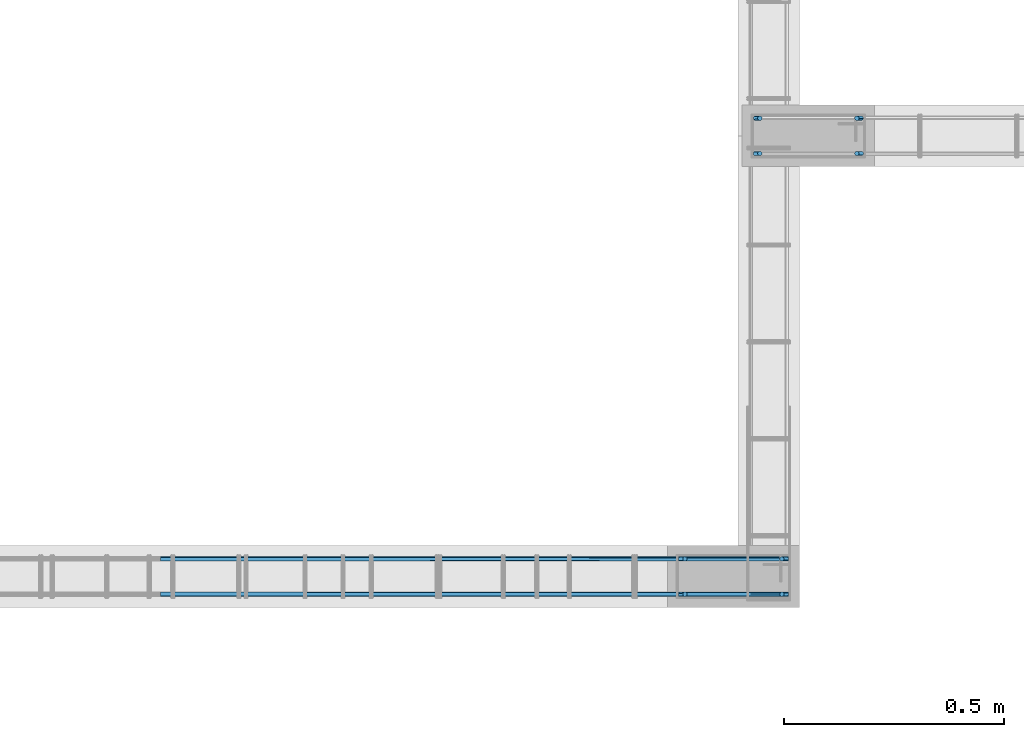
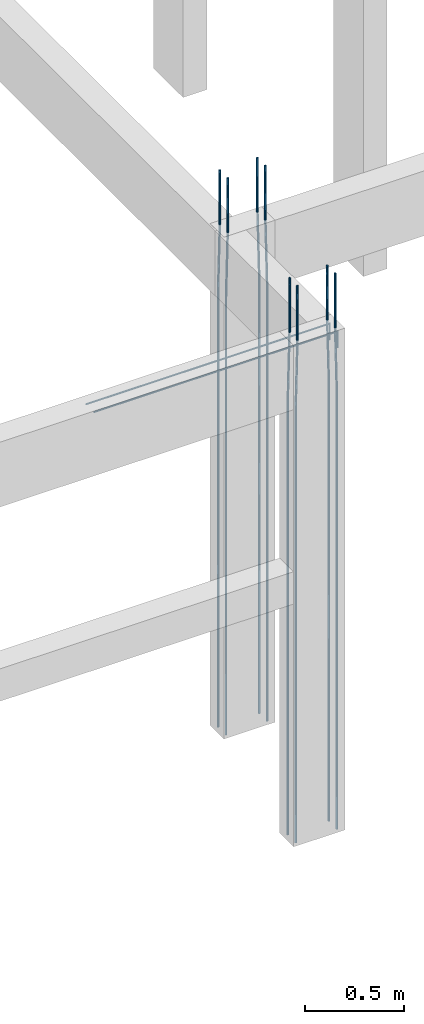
# One storey, part 17 of 236: 10 reinforcing bars.
"""IFC4 building model written with IfcOpenShell, lengths in centimetres."""

import ifcopenshell
import ifcopenshell.guid

model = None  # the IFC model being written
_history = None  # IfcOwnerHistory: only IFC2X3 demands one
_inside = {}  # id of a spatial element -> (the spatial element, [elements in it])
_under = {}  # id of a project, library or spatial element -> (it, [spatial elements below it])
_declared = {}  # id of a project -> (the project, [libraries it declares])
_typed = {}  # id of a type object -> (the type object, [elements of that type])
_made_of = {}  # id of a material, layer set ... -> (it, [elements and type objects made of it])


def new_model(schema):
    """Start an empty IFC model of exactly this schema.

    Asked for "IFC4X3", IfcOpenShell would pick the latest addendum, in which some entities
    have other attributes; the version numbers below select the first issue.
    IFC2X3 requires an IfcOwnerHistory on every rooted entity: one is made here for all.
    """
    global model, _history
    if schema == "IFC4X3":
        model = ifcopenshell.file(schema_version=(4, 3, 0, 0))
    else:
        model = ifcopenshell.file(schema=schema)
    _inside.clear()
    _under.clear()
    _declared.clear()
    _typed.clear()
    _made_of.clear()
    _history = None
    if model.schema == "IFC2X3":
        org = make("IfcOrganization", Name="unknown")
        user = make(
            "IfcPersonAndOrganization",
            ThePerson=make("IfcPerson", FamilyName="unknown"),
            TheOrganization=org,
        )
        app = make(
            "IfcApplication",
            ApplicationDeveloper=org,
            Version="unknown",
            ApplicationFullName="unknown",
            ApplicationIdentifier="unknown",
        )
        _history = make(
            "IfcOwnerHistory",
            OwningUser=user,
            OwningApplication=app,
            ChangeAction="ADDED",
            CreationDate=0,
        )
    return model


def make(cls, **values):
    """One entity of the class cls with the attributes given. An attribute that is None is left unset."""
    return model.create_entity(
        cls, **{name: value for name, value in values.items() if value is not None}
    )


def entity(cls, *values):
    """Any entity or typed value of the class cls, its attributes in the order of the schema. None: left unset."""
    e = model.create_entity(cls)
    for i, value in enumerate(values):
        if value is not None:
            e[i] = value
    return e


def rooted(cls, **values):
    """An entity with a GlobalId (a new one), such as an element, a storey or a relation."""
    return make(cls, GlobalId=ifcopenshell.guid.new(), OwnerHistory=_history, **values)


def si_unit(unit_type, name, prefix=None):
    """IfcSIUnit, for example si_unit("LENGTHUNIT", "METRE", prefix="MILLI")."""
    return make("IfcSIUnit", UnitType=unit_type, Prefix=prefix, Name=name)


def derived_unit(unit_type, elements):
    """IfcDerivedUnit: a product of units, each with its exponent."""
    return make(
        "IfcDerivedUnit",
        Elements=[
            make("IfcDerivedUnitElement", Unit=unit, Exponent=power)
            for unit, power in elements
        ],
        UnitType=unit_type,
    )


def assignment(units):
    """IfcUnitAssignment: the units of a project."""
    return None if units is None else make("IfcUnitAssignment", Units=units)


def point(xyz):
    """IfcCartesianPoint."""
    return None if xyz is None else make("IfcCartesianPoint", Coordinates=xyz)


def direction(xyz):
    """IfcDirection."""
    return None if xyz is None else make("IfcDirection", DirectionRatios=xyz)


def frame(location, z_axis=None, x_axis=None):
    """IfcAxis2Placement3D, a coordinate frame: its origin and axes. An axis left out is left unset."""
    return make(
        "IfcAxis2Placement3D",
        Location=point(location),
        Axis=direction(z_axis),
        RefDirection=direction(x_axis),
    )


def origin_with_axes():
    """The frame at (0, 0, 0) with the z axis (0, 0, 1) and the x axis (1, 0, 0) written out."""
    return frame((0.0, 0.0, 0.0), z_axis=(0.0, 0.0, 1.0), x_axis=(1.0, 0.0, 0.0))


def place(relative_to, where):
    """IfcLocalPlacement: puts the frame where relative to a parent placement (None: the world)."""
    return make(
        "IfcLocalPlacement", PlacementRelTo=relative_to, RelativePlacement=where
    )


def context(
    kind, dimensions, precision=None, world=None, true_north=None, identifier=None
):
    """IfcGeometricRepresentationContext, for example the 3D "Model" context."""
    return make(
        "IfcGeometricRepresentationContext",
        ContextIdentifier=identifier,
        ContextType=kind,
        CoordinateSpaceDimension=dimensions,
        Precision=precision,
        WorldCoordinateSystem=world,
        TrueNorth=true_north,
    )


def project(units=None, contexts=None):
    """IfcProject with its units and contexts."""
    return rooted(
        "IfcProject",
        Name="project",
        RepresentationContexts=contexts,
        UnitsInContext=assignment(units),
    )


def spatial(cls, under=None, at=None, **own):
    """A site, building, storey or space (cls), placed at a placement, below another one or the project."""
    s = rooted(cls, ObjectPlacement=at, **own)
    if under is not None:
        _under.setdefault(under.id(), (under, []))[1].append(s)
    return s


def shape(context_of_items, identifier, shape_type, items):
    """IfcShapeRepresentation: the items that make up one representation, for example the "Body"."""
    return make(
        "IfcShapeRepresentation",
        ContextOfItems=context_of_items,
        RepresentationIdentifier=identifier,
        RepresentationType=shape_type,
        Items=items,
    )


def made_of(thing, what):
    """Note that an element or type object is made of a material, layer set ...; save() writes the relation."""
    if what is not None:
        _made_of.setdefault(what.id(), (what, []))[1].append(thing)
    return thing


def element(
    cls,
    number,
    at=None,
    inside=None,
    cuts=None,
    type_object=None,
    material=None,
    context=None,
    identifier="Body",
    shape_type=None,
    held_by="IfcProductDefinitionShape",
    body=None,
    shapes=None,
    **own,
):
    """One element of the class cls, such as IfcWall. Its Tag is "e" and its number.

    at: its placement. inside: the storey or other place that contains it. cuts: it is an
    opening in that element (IfcRelVoidsElement). A single representation is given by context,
    identifier, shape_type and body (its items); several are given by shapes. held_by: the class
    of the entity that holds the representations. save() writes the other relations.
    """
    e = rooted(cls, Tag="e%d" % number, ObjectPlacement=at, **own)
    if body is not None:
        shapes = [shape(context, identifier, shape_type, body)]
    if shapes is not None:
        e.Representation = make(held_by, Representations=shapes)
    if inside is not None:
        _inside.setdefault(inside.id(), (inside, []))[1].append(e)
    if cuts is not None:
        rooted(
            "IfcRelVoidsElement", RelatingBuildingElement=cuts, RelatedOpeningElement=e
        )
    if type_object is not None:
        _typed.setdefault(type_object.id(), (type_object, []))[1].append(e)
    return made_of(e, material)


def aggregate(whole, parts):
    """IfcRelAggregates: a whole, such as a stair, and the parts it consists of."""
    return rooted("IfcRelAggregates", RelatingObject=whole, RelatedObjects=parts)


def save(model, path):
    """Write the relations noted so far, then the file.

    IfcRelAggregates (storeys below a building ...), IfcRelContainedInSpatialStructure (elements
    in a storey), IfcRelDefinesByType, IfcRelAssociatesMaterial and IfcRelDeclares: one each for
    every whole, place, type object, material and project.
    """
    for whole, parts in _under.values():
        aggregate(whole, parts)
    for where, things in _inside.values():
        rooted(
            "IfcRelContainedInSpatialStructure",
            RelatedElements=things,
            RelatingStructure=where,
        )
    for kind, things in _typed.values():
        rooted("IfcRelDefinesByType", RelatedObjects=things, RelatingType=kind)
    for what, things in _made_of.values():
        rooted("IfcRelAssociatesMaterial", RelatedObjects=things, RelatingMaterial=what)
    for by, libraries in _declared.values():
        rooted("IfcRelDeclares", RelatingContext=by, RelatedDefinitions=libraries)
    model.write(path)


model = new_model("IFC4")

# Units and contexts
model_context = context("Model", 3, precision=1e-05, world=origin_with_axes(), identifier="Body")
ifc_project = project(units=[si_unit("LENGTHUNIT", "METRE", prefix="CENTI"), si_unit("VOLUMEUNIT", "CUBIC_METRE"), si_unit("AREAUNIT", "SQUARE_METRE"), si_unit("POWERUNIT", "WATT"), si_unit("LUMINOUSFLUXUNIT", "LUMEN"), si_unit("ELECTRICCURRENTUNIT", "AMPERE"), si_unit("PRESSUREUNIT", "PASCAL", prefix="KILO"), si_unit("MASSUNIT", "GRAM", prefix="KILO"), si_unit("PLANEANGLEUNIT", "RADIAN"), derived_unit("VOLUMETRICFLOWRATEUNIT", [(si_unit("LENGTHUNIT", "METRE"), 3), (si_unit("TIMEUNIT", "SECOND"), -1)])], contexts=[model_context])

# Site, building, storey
site_placement = place(None, frame((-4000.0, 0.0, 0.0), z_axis=(0.0, 0.0, 1.0), x_axis=(1.0, 0.0, 0.0)))
site = spatial("IfcSite", under=ifc_project, at=site_placement, Name="PADRÃO")
building_placement = place(site_placement, frame((0.0, 0.0, -14.0)))
building = spatial("IfcBuilding", under=site, at=building_placement, Name="CRECHE PRÉ-ESCOLA TIPO 2")
placement_1 = place(building_placement, origin_with_axes())
placement_2 = place(placement_1, frame((0.0, 0.0, 30.0), z_axis=(0.0, 0.0, 1.0), x_axis=(1.0, 0.0, 0.0)))
storey_placement = place(placement_2, frame((0.0, 0.0, 310.0), z_axis=(0.0, 0.0, 1.0), x_axis=(1.0, 0.0, 0.0)))
storey = spatial("IfcBuildingStorey", under=building, at=storey_placement, Name="TERREO", CompositionType="ELEMENT", Elevation=326.0)

# Reinforcing bars
reinforcing_bar_placement = place(storey_placement, frame((1116.22, 511.01, 33.3573001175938), z_axis=(0.0, 0.0, 1.0), x_axis=(1.0, 0.0, 0.0)))
element("IfcReinforcingBar", 1, at=reinforcing_bar_placement, inside=storey, Name="P137 - Longitudinal", BarLength=0.0, CrossSectionArea=7.853981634e-05, NominalDiameter=1.0, PredefinedType="MAIN", context=model_context, shape_type="AdvancedSweptSolid", body=[
    entity("IfcSweptDiskSolid", entity("IfcCompositeCurve", [entity("IfcCompositeCurveSegment", "CONTINUOUS", True, entity("IfcPolyline", [entity("IfcCartesianPoint", [-0.5, 0.0, -343.357300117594]), entity("IfcCartesianPoint", [-0.5, 0.0, -73.3573001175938])])), entity("IfcCompositeCurveSegment", "CONTINUOUS", True, entity("IfcPolyline", [entity("IfcCartesianPoint", [-0.5, 0.0, -73.3573001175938]), entity("IfcCartesianPoint", [0.5, 0.0, -33.3573001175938])])), entity("IfcCompositeCurveSegment", "CONTINUOUS", True, entity("IfcPolyline", [entity("IfcCartesianPoint", [0.5, 0.0, -33.3573001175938]), entity("IfcCartesianPoint", [0.5, 0.0, 0.0])]))], False), 0.5),
])
for number, where, z_axis, x_axis, name in (
    (2, (1139.22, 511.01, 33.3573001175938), (0.0, 0.0, 1.0), (1.0, 0.0, 0.0), "P137 - Longitudinal"),
    (3, (1139.22, 519.01, 33.3573001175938), (0.0, 0.0, 1.0), (1.0, 0.0, 0.0), "P137 - Longitudinal"),
):
    element("IfcReinforcingBar", number, at=place(storey_placement, frame(where, z_axis=z_axis, x_axis=x_axis)), inside=storey, Name=name, BarLength=0.0, CrossSectionArea=7.853981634e-05, NominalDiameter=1.0, PredefinedType="MAIN", context=model_context, shape_type="AdvancedSweptSolid", body=[
        entity("IfcSweptDiskSolid", entity("IfcCompositeCurve", [entity("IfcCompositeCurveSegment", "CONTINUOUS", True, entity("IfcPolyline", [entity("IfcCartesianPoint", [0.5, 0.0, -343.357300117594]), entity("IfcCartesianPoint", [0.5, 0.0, -73.3573001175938])])), entity("IfcCompositeCurveSegment", "CONTINUOUS", True, entity("IfcPolyline", [entity("IfcCartesianPoint", [0.5, 0.0, -73.3573001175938]), entity("IfcCartesianPoint", [-0.5, 0.0, -33.3573001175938])])), entity("IfcCompositeCurveSegment", "CONTINUOUS", True, entity("IfcPolyline", [entity("IfcCartesianPoint", [-0.5, 0.0, -33.3573001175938]), entity("IfcCartesianPoint", [-0.5, 0.0, 0.0])]))], False), 0.5),
    ])
for number, where, z_axis, x_axis, name in (
    (4, (1116.22, 519.01, 33.3573001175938), (0.0, 0.0, 1.0), (1.0, 0.0, 0.0), "P137 - Longitudinal"),
    (5, (1099.22, 419.01, 33.3573001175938), (0.0, 0.0, 1.0), (1.0, 0.0, 0.0), "P145 - Longitudinal"),
    (6, (1099.22, 411.01, 33.3573001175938), (0.0, 0.0, 1.0), (1.0, 0.0, 0.0), "P145 - Longitudinal"),
):
    element("IfcReinforcingBar", number, at=place(storey_placement, frame(where, z_axis=z_axis, x_axis=x_axis)), inside=storey, Name=name, BarLength=0.0, CrossSectionArea=7.853981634e-05, NominalDiameter=1.0, PredefinedType="MAIN", context=model_context, shape_type="AdvancedSweptSolid", body=[
        entity("IfcSweptDiskSolid", entity("IfcCompositeCurve", [entity("IfcCompositeCurveSegment", "CONTINUOUS", True, entity("IfcPolyline", [entity("IfcCartesianPoint", [-0.5, 0.0, -343.357300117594]), entity("IfcCartesianPoint", [-0.5, 0.0, -73.3573001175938])])), entity("IfcCompositeCurveSegment", "CONTINUOUS", True, entity("IfcPolyline", [entity("IfcCartesianPoint", [-0.5, 0.0, -73.3573001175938]), entity("IfcCartesianPoint", [0.5, 0.0, -33.3573001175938])])), entity("IfcCompositeCurveSegment", "CONTINUOUS", True, entity("IfcPolyline", [entity("IfcCartesianPoint", [0.5, 0.0, -33.3573001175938]), entity("IfcCartesianPoint", [0.5, 0.0, 0.0])]))], False), 0.5),
    ])
for number, where, z_axis, x_axis, name in (
    (7, (1122.22, 411.01, 33.3573001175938), (0.0, 0.0, 1.0), (1.0, 0.0, 0.0), "P145 - Longitudinal"),
    (8, (1122.22, 419.01, 33.3573001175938), (0.0, 0.0, 1.0), (1.0, 0.0, 0.0), "P145 - Longitudinal"),
):
    element("IfcReinforcingBar", number, at=place(storey_placement, frame(where, z_axis=z_axis, x_axis=x_axis)), inside=storey, Name=name, BarLength=0.0, CrossSectionArea=7.853981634e-05, NominalDiameter=1.0, PredefinedType="MAIN", context=model_context, shape_type="AdvancedSweptSolid", body=[
        entity("IfcSweptDiskSolid", entity("IfcCompositeCurve", [entity("IfcCompositeCurveSegment", "CONTINUOUS", True, entity("IfcPolyline", [entity("IfcCartesianPoint", [0.5, 0.0, -343.357300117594]), entity("IfcCartesianPoint", [0.5, 0.0, -73.3573001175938])])), entity("IfcCompositeCurveSegment", "CONTINUOUS", True, entity("IfcPolyline", [entity("IfcCartesianPoint", [0.5, 0.0, -73.3573001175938]), entity("IfcCartesianPoint", [-0.5, 0.0, -33.3573001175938])])), entity("IfcCompositeCurveSegment", "CONTINUOUS", True, entity("IfcPolyline", [entity("IfcCartesianPoint", [-0.5, 0.0, -33.3573001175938]), entity("IfcCartesianPoint", [-0.5, 0.0, 0.0])]))], False), 0.5),
    ])
for number, where, z_axis, x_axis, name in (
    (9, (1052.22240508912, 411.009271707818, -2.49531217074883), (0.0, 0.0, 1.0), (1.0, 0.0, 0.0), "V257 - Longitudinal superior"),
    (10, (1052.22227443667, 419.009271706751, -2.49531217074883), (0.0, 0.0, 1.0), (1.0, 0.0, 0.0), "V257 - Longitudinal superior"),
):
    element("IfcReinforcingBar", number, at=place(storey_placement, frame(where, z_axis=z_axis, x_axis=x_axis)), inside=storey, Name=name, BarLength=0.0, CrossSectionArea=7.853981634e-05, NominalDiameter=1.0, PredefinedType="MAIN", context=model_context, shape_type="AdvancedSweptSolid", body=[
        entity("IfcSweptDiskSolid", entity("IfcCompositeCurve", [entity("IfcCompositeCurveSegment", "CONTINUOUS", True, entity("IfcPolyline", [entity("IfcCartesianPoint", [-71.5023397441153, -0.001186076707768, -0.504687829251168]), entity("IfcCartesianPoint", [70.9976602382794, 0.001186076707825, -0.504687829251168])])), entity("IfcCompositeCurveSegment", "CONTINUOUS", True, entity("IfcPolyline", [entity("IfcCartesianPoint", [70.9976602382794, 0.001186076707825, -0.504687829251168]), entity("IfcCartesianPoint", [70.9976602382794, 0.001186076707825, -10.5046878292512])]))], False), 0.5),
    ])

save(model, "model.ifc")
